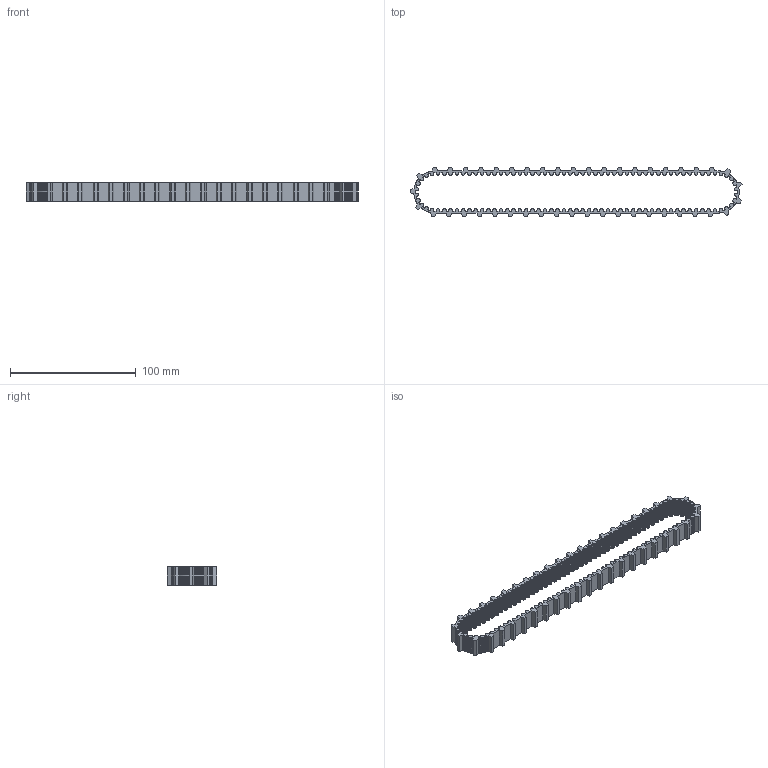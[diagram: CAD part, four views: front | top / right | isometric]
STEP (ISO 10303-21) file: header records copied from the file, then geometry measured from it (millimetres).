
FILE_DESCRIPTION(('Open CASCADE Model'),'2;1');
FILE_NAME('Open CASCADE Shape Model','2026-10-15T02:45:40',('Author'),( 'Open CASCADE'),'Open CASCADE STEP processor 7.9','Open CASCADE 7.9' ,'Unknown');
FILE_SCHEMA(('AUTOMOTIVE_DESIGN { 1 0 10303 214 1 1 1 1 }'));
Products named in the file (1): Open CASCADE STEP translator 7.9 2
Bounding box: 263.73 x 39.52 x 15 mm (x, y, z)
Volume: 26336.6 mm3; surface area: 27561.7 mm2
Topology: 1 solids, 1 shells, 3358 faces, 10068 edges, 6712 vertices
Faces by surface type: plane 3358
Entity records: 241670 total; most frequent: CARTESIAN_POINT 40275, DIRECTION 36922, LINE 30204, VECTOR 30204, ORIENTED_EDGE 20136, PCURVE 20136, DEFINITIONAL_REPRESENTATION 20136, EDGE_CURVE 10068
